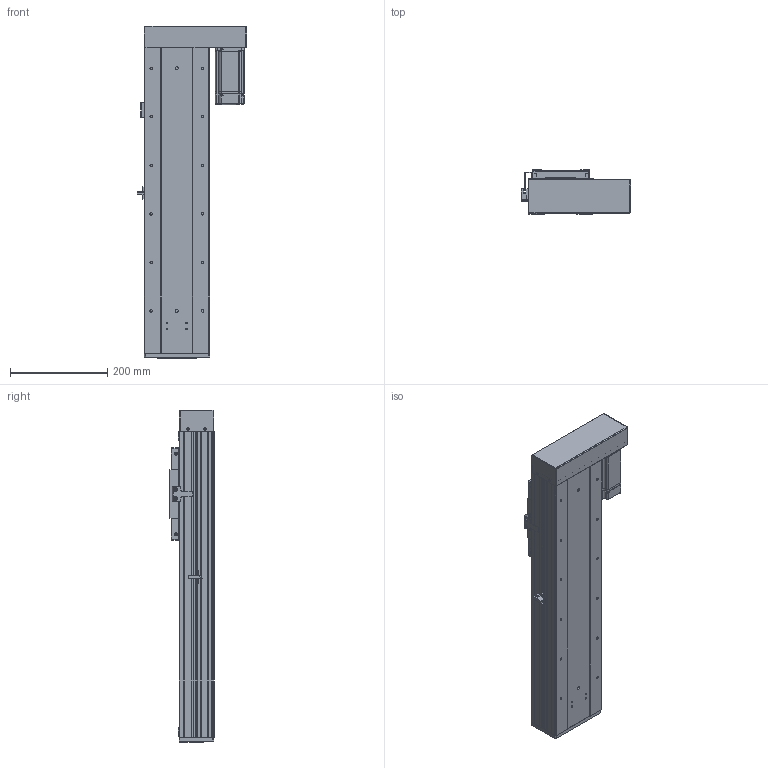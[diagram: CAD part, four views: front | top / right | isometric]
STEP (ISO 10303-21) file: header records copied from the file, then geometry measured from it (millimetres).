
FILE_DESCRIPTION (( 'STEP AP203' ), '1' );
FILE_NAME ('RY140F-L2020-300-RK.SLDASM_350.step', '2021-03-02T08:50:06', ( '盈信电脑' ), ( '东莞市道滘镇水果街19号' ), 'SwSTEP 2.0', 'SolidWorks 2012', '' );
FILE_SCHEMA (( 'CONFIG_CONTROL_DESIGN' ));
Products named in the file (19): RY140F-L2020-300-RK.SLDASM_350; RY140F-酘衵殏萇儂欶(400W); RY140F-詩湍揤え; RY140F-转折折电机座（7001）; RY140F-左右折电机安装板(400W M5); 侐源滅袉蝶; RY140F-672覜茼んえ; 15; 覜茼ん672; 侂狟400W侜督萇儂; RY140F-直连型材铝滑块(16丝杆); RY140F-后盖板(铝件）; RY100F-詩湍揤踡謫; RY140F-詩湍幗謫粣; RY140F-滅鳥奻裔; RY140F-300-RK蛌殏詩湍_350; RY140F-直连型材铝滑块连接座; RY140F-300-RK倰第奻裔啣_350; RY140F-300-RK倰第菁釱_350
Assembly tree (23 placements, depth 3):
  RY140F-L2020-300-RK.SLDASM_350
    RY140F-300-RK倰第菁釱_350
    RY140F-300-RK倰第奻裔啣_350  x2
    RY140F-300-RK蛌殏詩湍_350
    RY140F-直连型材铝滑块连接座
    RY140F-滅鳥奻裔
    RY140F-詩湍幗謫粣
    RY100F-詩湍揤踡謫
    RY140F-直连型材铝滑块(16丝杆)
    RY140F-后盖板(铝件）
    侂狟400W侜督萇儂
      15
    覜茼ん672
    RY140F-672覜茼んえ
    RY140F-詩湍揤え  x2
    侐源滅袉蝶  x4
    RY140F-转折折电机座（7001）
    RY140F-左右折电机安装板(400W M5)
    RY140F-酘衵殏萇儂欶(400W)
Bounding box: 224.7 x 91 x 684 mm (x, y, z)
Volume: 3058519.3 mm3; surface area: 1080955.4 mm2
Topology: 22 solids, 22 shells, 1989 faces, 5429 edges, 3454 vertices
Faces by surface type: cylinder 960, plane 789, cone 210, bspline 26, torus 4
Entity records: 62907 total; most frequent: CARTESIAN_POINT 13367, DIRECTION 10038, ORIENTED_EDGE 9778, EDGE_CURVE 4889, AXIS2_PLACEMENT_3D 3589, VERTEX_POINT 3194, LINE 2860, VECTOR 2860
